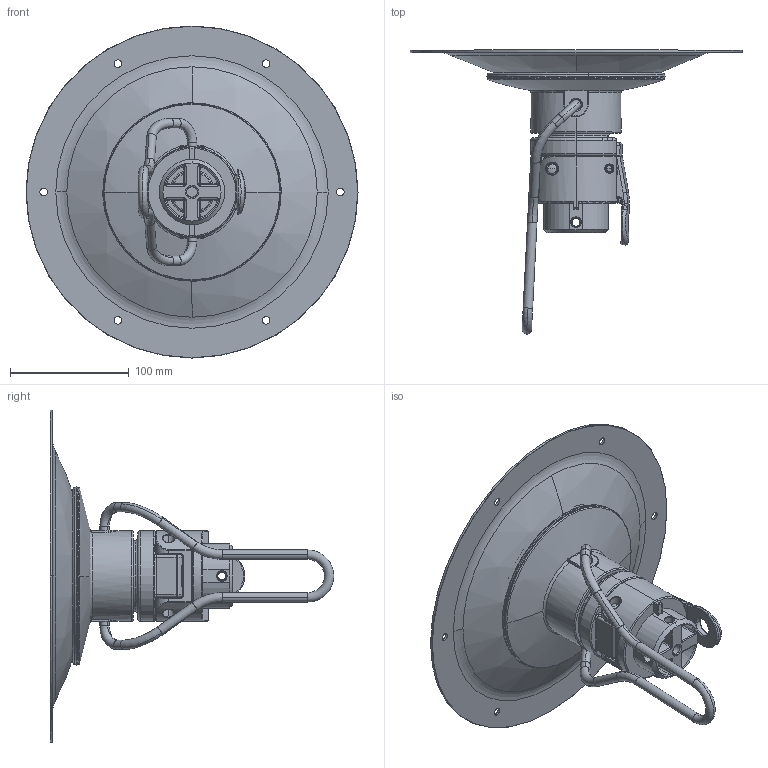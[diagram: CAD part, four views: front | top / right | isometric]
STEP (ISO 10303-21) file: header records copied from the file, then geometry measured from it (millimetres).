
FILE_DESCRIPTION (( 'STEP AP214' ), '1' );
FILE_NAME ('B135-LVR-W公開.STEP', '2022-05-23T01:52:13', ( '' ), ( '' ), 'SwSTEP 2.0', 'SolidWorks 2019', '' );
FILE_SCHEMA (( 'AUTOMOTIVE_DESIGN' ));
Length unit declared in the file: millimetre
Products named in the file (18): SimCover; Fastener; HingeBaseF; HingePin; 六角ボルトM8x20; Sim; SwingLever; LockNutCover; LockNut_W; 平座金M8x24; M30Bolt; B135-LVR-W公開; TablePlate_SUS; ばね座金M8; UpperPlate; LinkPin; ShaftBaseF; FastenerPin
Assembly tree (17 placements, depth 2):
  B135-LVR-W公開
    HingeBaseF
    ShaftBaseF
    M30Bolt
    LockNut_W
    UpperPlate
    SimCover
    Sim
    TablePlate_SUS
    HingePin
    LockNutCover
    SwingLever
    Fastener
    FastenerPin
    LinkPin
    六角ボルトM8x20
    ばね座金M8
    平座金M8x24
Bounding box: 280 x 239.38 x 280 mm (x, y, z)
Volume: 670196.6 mm3; surface area: 408382.5 mm2
Topology: 17 solids, 17 shells, 1523 faces, 3710 edges, 2146 vertices
Faces by surface type: cylinder 633, torus 304, plane 259, bspline 134, sphere 120, cone 73
Entity records: 58650 total; most frequent: CARTESIAN_POINT 23020, DIRECTION 7856, ORIENTED_EDGE 7214, EDGE_CURVE 3607, AXIS2_PLACEMENT_3D 3329, VERTEX_POINT 2138, CIRCLE 1920, EDGE_LOOP 1599
